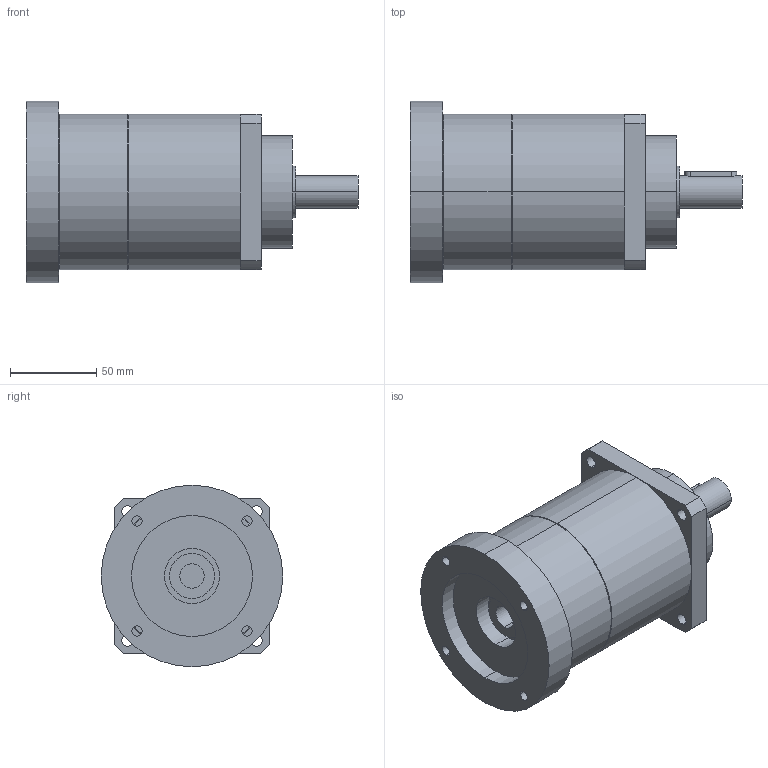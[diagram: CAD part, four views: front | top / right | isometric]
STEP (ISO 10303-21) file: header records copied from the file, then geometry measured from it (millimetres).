
FILE_DESCRIPTION(('CoCreate Modeling STEP Export'),'2;1');
FILE_NAME('GPT90_ig-9-12-16-20-25-28-35-40-50-70-100_19_B5T_14_P14.stp','2015-02-04T11:29:16',(''),(''),'CoCreate Modeling STEP processor for AP214 (Solid Model)','CoCreate Modeling 16.00C 25-Feb-2009 (C) Parametric Technology GmbH','');
FILE_SCHEMA(('AUTOMOTIVE_DESIGN { 1 0 10303 214 1 1 1 1 }'));
Length unit declared in the file: millimetre
Products named in the file (2): GPT90_ig-9-12-16-20-25-28-35-40-50-70-100_19_B5T_14_P14
Assembly tree (1 placements, depth 2):
  GPT90_ig-9-12-16-20-25-28-35-40-50-70-100_19_B5T_14_P14
    GPT90_ig-9-12-16-20-25-28-35-40-50-70-100_19_B5T_14_P14
Bounding box: 192 x 105 x 105 mm (x, y, z)
Volume: 949868 mm3; surface area: 74526.2 mm2
Topology: 1 solids, 1 shells, 75 faces, 205 edges, 138 vertices
Faces by surface type: cylinder 44, plane 27, cone 4
Entity records: 2477 total; most frequent: CARTESIAN_POINT 717, ORIENTED_EDGE 410, DIRECTION 294, EDGE_CURVE 205, VERTEX_POINT 138, AXIS2_PLACEMENT_3D 112, EDGE_LOOP 97, FACE_OUTER_BOUND 75
